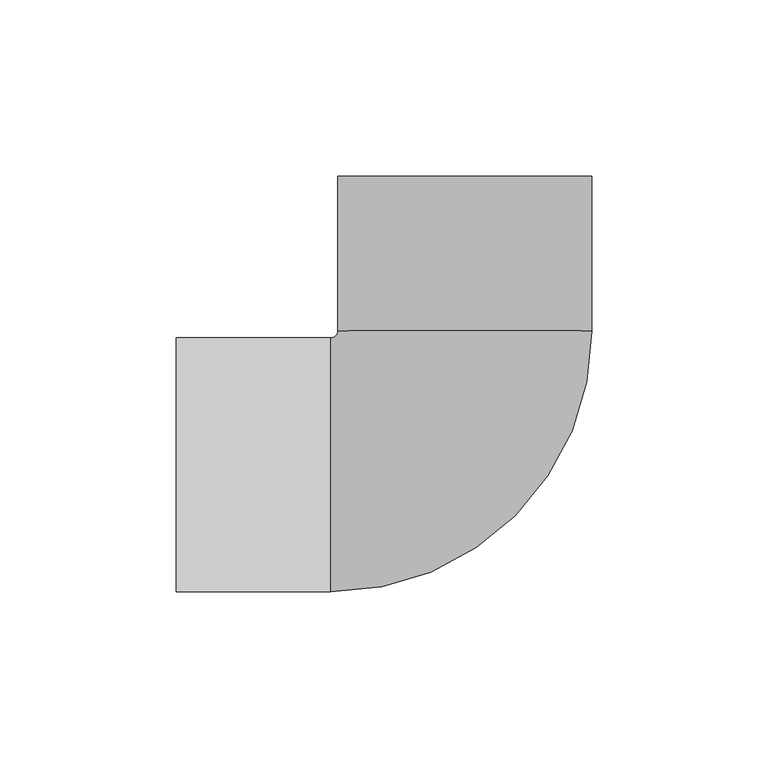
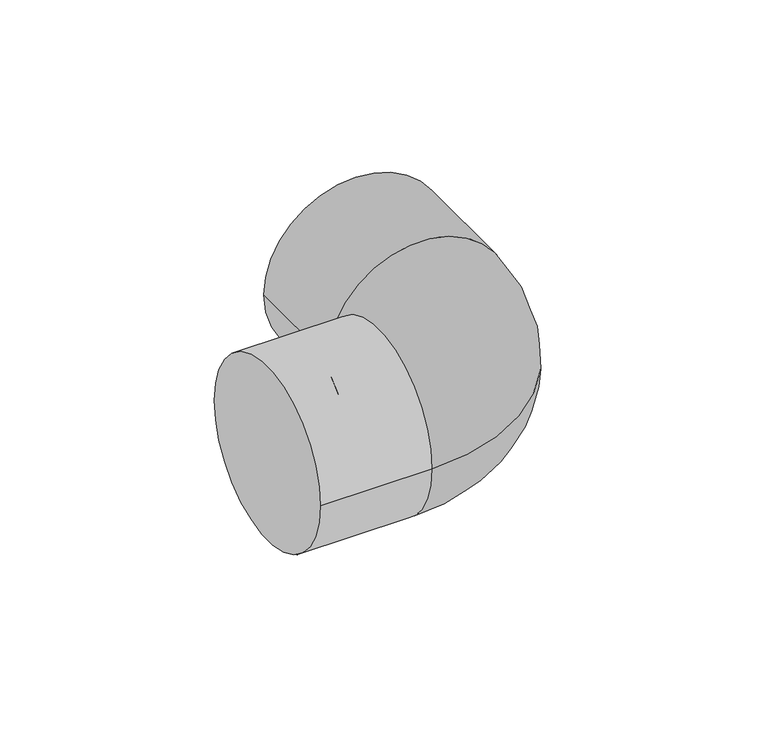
"""IFC4 building model written with IfcOpenShell, lengths in millimetres: pipe fitting geometry, 01051001 : Coudes à 90º."""

from ifc_helpers import new_model, si_unit, point, frame, origin, place, context, project, spatial, circle_curve, ellipse_curve, trimmed, source, transform, mapped, element, save
from ifc_brep_helpers import plane_surface, cylinder_surface, revolved_surface, advanced_brep


def pipe_fitting_d2df814d(model_context):
    return source(origin(), model_context, "Body", "AdvancedBrep", [
        advanced_brep(
        [(-38.0, -36.1, 0.0), (36.1, 38.0, 0.0), (-36.1, 38.0, 0.0), (-38.0, 36.1, 0.0), (-36.1, 82.0, 0.0), (36.1, 82.0, 0.0), (-82.0, 36.1, 0.0), (-82.0, -36.1, 0.0)],
        [
            (0, 1, circle_curve(frame((-38.0, 38.0, 0.0), z_axis=(0.0, 0.0, 1.0), x_axis=(1.0, 0.0, 0.0)), 74.1)),
            (1, 2, circle_curve(frame((0.0, 38.0, 0.0), z_axis=(0.0, -1.0, 0.0), x_axis=(1.0, 0.0, 0.0)), 36.1)),
            (2, 3, circle_curve(frame((-38.0, 38.0, 0.0), z_axis=(0.0, 0.0, -1.0), x_axis=(1.0, 0.0, 0.0)), 1.9)),
            (3, 0, circle_curve(frame((-38.0, 0.0, 0.0), z_axis=(1.0, 0.0, 0.0), x_axis=(0.0, -1.0, 0.0)), 36.1)),
            (2, 1, circle_curve(frame((0.0, 38.0, 0.0), z_axis=(0.0, -1.0, 0.0), x_axis=(1.0, 0.0, 0.0)), 36.1)),
            (0, 3, circle_curve(frame((-38.0, 0.0, 0.0), z_axis=(1.0, 0.0, 0.0), x_axis=(0.0, -1.0, 0.0)), 36.1)),
            (4, 5, circle_curve(frame((0.0, 82.0, 0.0), z_axis=(0.0, 1.0, 0.0), x_axis=(1.0, 0.0, 0.0)), 36.1)),
            (5, 4, circle_curve(frame((0.0, 82.0, 0.0), z_axis=(0.0, 1.0, 0.0), x_axis=(1.0, 0.0, 0.0)), 36.1)),
            (4, 2),
            (1, 5),
            (6, 7, circle_curve(frame((-82.0, 0.0, 0.0), z_axis=(-1.0, 0.0, 0.0), x_axis=(0.0, -1.0, 0.0)), 36.1)),
            (7, 6, circle_curve(frame((-82.0, 0.0, 0.0), z_axis=(-1.0, 0.0, 0.0), x_axis=(0.0, -1.0, 0.0)), 36.1)),
            (3, 6),
            (7, 0),
        ],
        [
            revolved_surface(trimmed(ellipse_curve(frame((0.0, 38.0, 0.0), z_axis=(0.0, 1.0, 0.0), x_axis=(1.0, 0.0, 0.0)), 36.1, 36.1), [point((-36.1, 38.0, 0.0))], [point((36.1, 38.0, 0.0))], True, "CARTESIAN"), (-38.0, 38.0, 0.0), (0.0, 0.0, -1.0)),
            revolved_surface(trimmed(ellipse_curve(frame((0.0, 38.0, 0.0), z_axis=(0.0, 1.0, 0.0), x_axis=(1.0, 0.0, 0.0)), 36.1, 36.1), [point((36.1, 38.0, 0.0))], [point((-36.1, 38.0, 0.0))], True, "CARTESIAN"), (-38.0, 38.0, 0.0), (0.0, 0.0, -1.0)),
            plane_surface(frame((0.0, 82.0, 0.0), z_axis=(0.0, 1.0, 0.0), x_axis=(0.0, 0.0, 1.0))),
            cylinder_surface(frame((0.0, 82.0, 0.0), z_axis=(0.0, 1.0, 0.0), x_axis=(1.0, 0.0, 0.0)), 36.1),
            plane_surface(frame((-82.0, 0.0, 0.0), z_axis=(-1.0, 0.0, 0.0), x_axis=(0.0, 0.0, 1.0))),
            cylinder_surface(frame((-38.0, 0.0, 0.0), z_axis=(1.0, 0.0, 0.0), x_axis=(0.0, -1.0, 0.0)), 36.1),
        ],
        [
            (0, [[1, 2, 3, 4]]),
            (1, [[-3, 5, -1, 6]]),
            (2, [[7, 8]]),
            (3, [[-7, 9, -2, 10]]),
            (3, [[-8, -10, -5, -9]]),
            (4, [[11, 12]]),
            (5, [[-4, 13, -12, 14]]),
            (5, [[-6, -14, -11, -13]]),
        ],
    ),
    ])


if __name__ == "__main__":
    model = new_model("IFC4")
    model_context = context("Model", 3, world=origin())
    ifc_project = project(units=[si_unit("LENGTHUNIT", "METRE", prefix="MILLI")], contexts=[model_context])
    site = spatial("IfcSite", under=ifc_project)
    building = spatial("IfcBuilding", under=site)
    placement = place(None, origin())
    pipe_fitting_shape = pipe_fitting_d2df814d(model_context)
    element("IfcPipeFitting", 1, ObjectType="01051001 : Coudes à 90º", at=placement, inside=building, context=model_context, shape_type="MappedRepresentation", body=[
        mapped(pipe_fitting_shape, transform((0.0, 0.0, 0.0), x_axis=(1.0, 0.0, 0.0), y_axis=(0.0, 1.0, 0.0), z_axis=(0.0, 0.0, 1.0))),
    ])
    save(model, "model.ifc")
